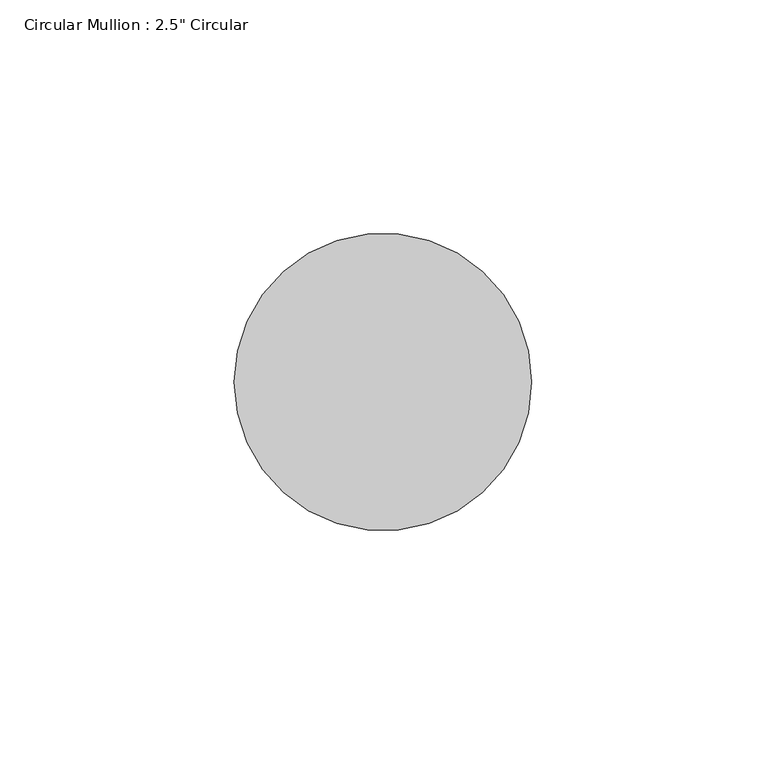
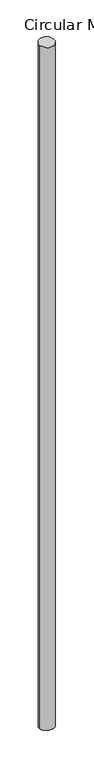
"""IFC4 building model written with IfcOpenShell, lengths in millimetres: member geometry."""

from ifc_helpers import new_model, si_unit, frame, origin, origin_with_axes, place, context, project, spatial, ellipse_curve, source, transform, mapped, element, save
from ifc_brep_helpers import plane_surface, cylinder_surface, advanced_brep


def member_01b3926e(model_context):
    return source(origin(), model_context, "Body", "AdvancedBrep", [
        advanced_brep(
        [(-31.75, 0.0, 0.3063686), (31.75, 0.0, -0.3063686), (31.75, 0.0, -3049.1037989), (-31.75, 0.0, -3049.9078155)],
        [
            (0, 1, ellipse_curve(frame((0.0, 0.0, 0.0), z_axis=(-0.009625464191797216, 0.06973591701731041, -0.9975190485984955), x_axis=(-0.13639180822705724, 0.988150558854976, 0.07039707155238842)), 31.8289661, 31.75)),
            (1, 2),
            (2, 3, ellipse_curve(frame((0.0, 0.0, -3049.5058072), z_axis=(-0.012622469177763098, 0.07761843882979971, 0.9969032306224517), x_axis=(0.1600163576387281, -0.9839770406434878, 0.07863808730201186)), 31.8486279, 31.75)),
            (3, 0),
            (1, 0, ellipse_curve(frame((0.0, 0.0, 0.0), z_axis=(-0.009625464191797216, 0.06973591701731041, -0.9975190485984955), x_axis=(-0.13639180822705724, 0.988150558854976, 0.07039707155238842)), 31.8289661, 31.75)),
            (3, 2, ellipse_curve(frame((0.0, 0.0, -3049.5058072), z_axis=(-0.012622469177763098, 0.07761843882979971, 0.9969032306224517), x_axis=(0.1600163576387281, -0.9839770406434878, 0.07863808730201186)), 31.8486279, 31.75)),
        ],
        [
            cylinder_surface(origin_with_axes(), 31.75),
            plane_surface(frame((301.9373823, 41.6756183, 0.0), z_axis=(0.009625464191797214, -0.0697359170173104, 0.9975190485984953), x_axis=(0.13639180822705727, -0.9881505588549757, -0.07039707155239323))),
            plane_surface(frame((300.8478584, 48.9244937, -3049.5058072), z_axis=(0.012622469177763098, -0.07761843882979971, -0.9969032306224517), x_axis=(0.1600163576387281, -0.9839770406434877, 0.07863808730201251))),
        ],
        [
            (0, [[1, 2, 3, 4]]),
            (0, [[5, -4, 6, -2]]),
            (1, [[-1, -5]]),
            (2, [[-6, -3]]),
        ],
    ),
    ])


if __name__ == "__main__":
    model = new_model("IFC4")
    model_context = context("Model", 3, world=origin())
    ifc_project = project(units=[si_unit("LENGTHUNIT", "METRE", prefix="MILLI")], contexts=[model_context])
    site = spatial("IfcSite", under=ifc_project)
    building = spatial("IfcBuilding", under=site)
    placement = place(None, origin())
    member_shape = member_01b3926e(model_context)
    element("IfcMember", 1, ObjectType="Circular Mullion : 2.5\" Circular", at=placement, inside=building, context=model_context, shape_type="MappedRepresentation", body=[
        mapped(member_shape, transform((0.0, 0.0, 0.0), x_axis=(1.0, 0.0, 0.0), y_axis=(0.0, 1.0, 0.0), z_axis=(0.0, 0.0, 1.0))),
    ])
    save(model, "model.ifc")
